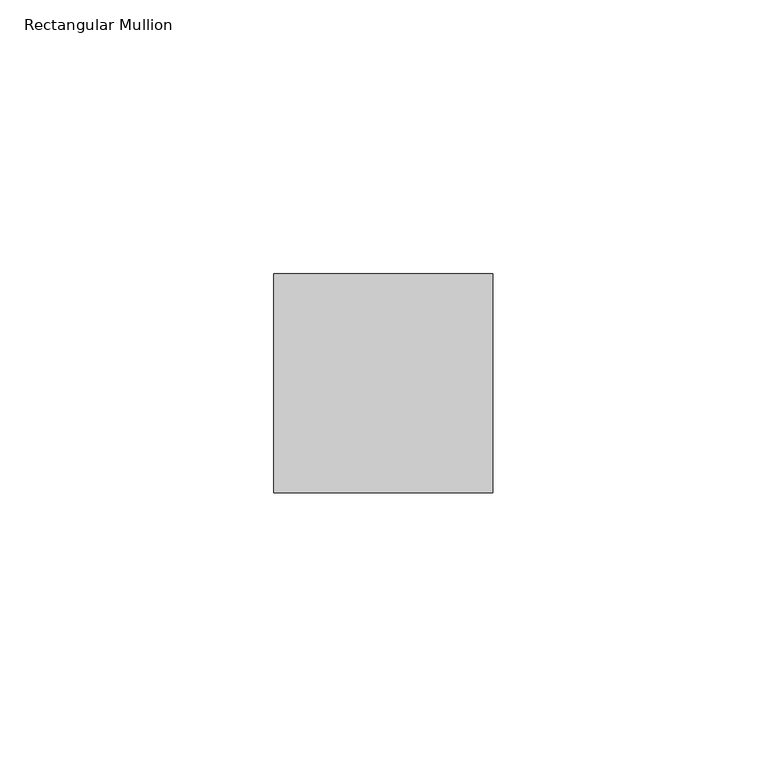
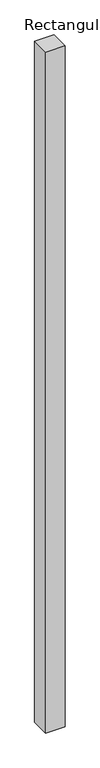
"""IFC4 building model written with IfcOpenShell, lengths in millimetres: member geometry, Rectangular Mullion : Danpal_NM_Middle-V-Mullion."""

from ifc_helpers import new_model, si_unit, frame, origin, place, context, project, spatial, polyline, outline, extrude, source, transform, mapped, element, save


def rectangular_mullion_18d46115(model_context):
    return source(origin(), model_context, "Body", "SweptSolid", [
        extrude(outline(polyline([(0.0, 13.2378279), (-40.0, 13.2378279), (-40.0, 53.2378279), (0.0, 53.2378279), (0.0, 13.2378279)])), frame((0.0, 0.0, -1500.0), z_axis=(0.0, 0.0, 1.0), x_axis=(1.0, 0.0, 0.0)), (0.0, 0.0, 1.0), 1500.0),
    ])


if __name__ == "__main__":
    model = new_model("IFC4")
    model_context = context("Model", 3, world=origin())
    ifc_project = project(units=[si_unit("LENGTHUNIT", "METRE", prefix="MILLI")], contexts=[model_context])
    site = spatial("IfcSite", under=ifc_project)
    building = spatial("IfcBuilding", under=site)
    placement = place(None, origin())
    rectangular_mullion_shape = rectangular_mullion_18d46115(model_context)
    element("IfcMember", 1, ObjectType="Rectangular Mullion : Danpal_NM_Middle-V-Mullion", at=placement, inside=building, context=model_context, shape_type="MappedRepresentation", body=[
        mapped(rectangular_mullion_shape, transform((0.0, 0.0, 0.0), x_axis=(1.0, 0.0, 0.0), y_axis=(0.0, 1.0, 0.0), z_axis=(0.0, 0.0, 1.0))),
    ])
    save(model, "model.ifc")
